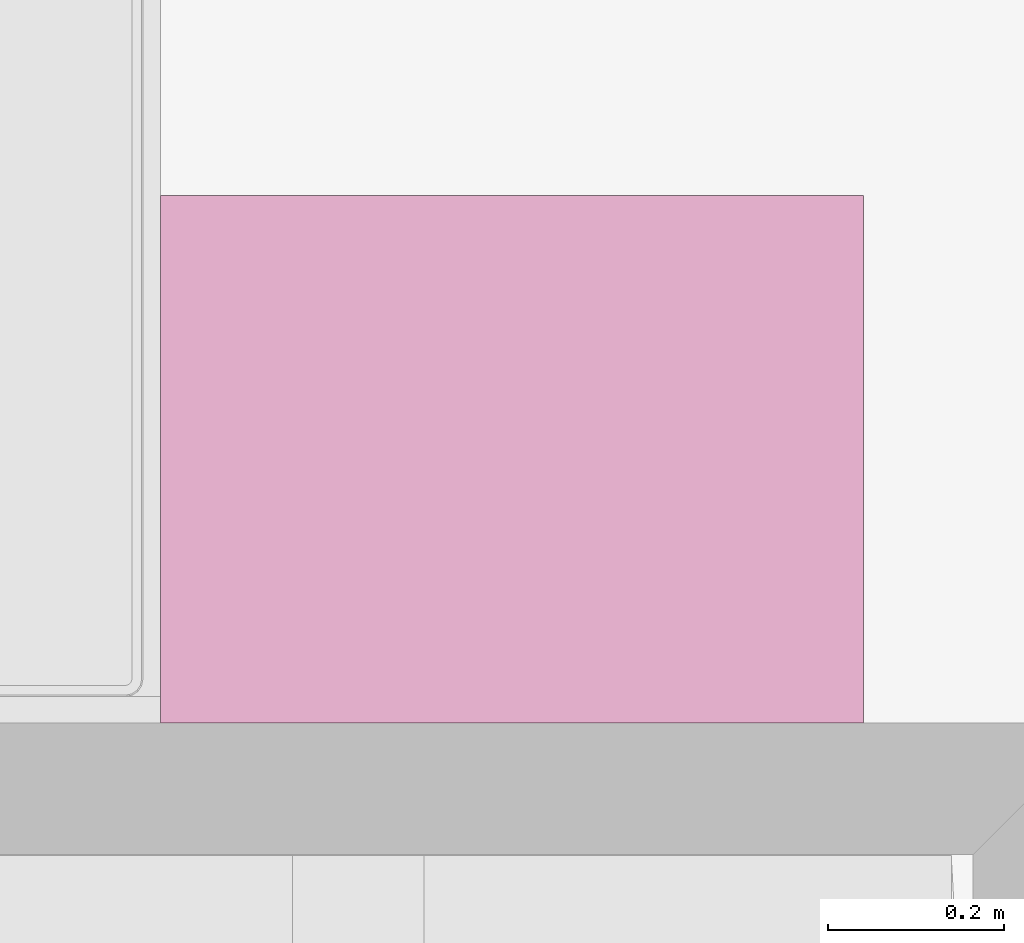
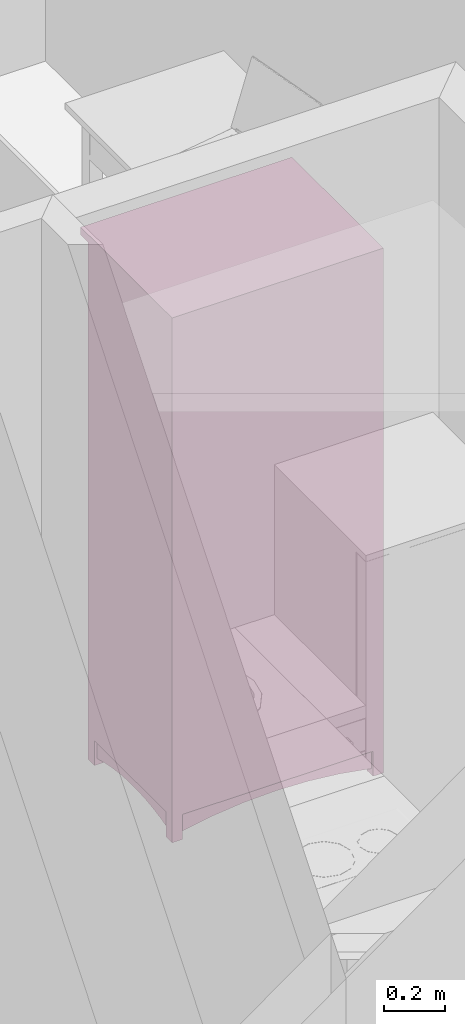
# One storey, part 133 of 172: 1 furnishing.
"""IFC2X3 building model written with IfcOpenShell, lengths in millimetres."""

import ifcopenshell
import ifcopenshell.guid

model = None  # the IFC model being written
_history = None  # IfcOwnerHistory: only IFC2X3 demands one
_inside = {}  # id of a spatial element -> (the spatial element, [elements in it])
_under = {}  # id of a project, library or spatial element -> (it, [spatial elements below it])
_declared = {}  # id of a project -> (the project, [libraries it declares])
_typed = {}  # id of a type object -> (the type object, [elements of that type])
_made_of = {}  # id of a material, layer set ... -> (it, [elements and type objects made of it])


def new_model(schema):
    """Start an empty IFC model of exactly this schema.

    Asked for "IFC4X3", IfcOpenShell would pick the latest addendum, in which some entities
    have other attributes; the version numbers below select the first issue.
    IFC2X3 requires an IfcOwnerHistory on every rooted entity: one is made here for all.
    """
    global model, _history
    if schema == "IFC4X3":
        model = ifcopenshell.file(schema_version=(4, 3, 0, 0))
    else:
        model = ifcopenshell.file(schema=schema)
    _inside.clear()
    _under.clear()
    _declared.clear()
    _typed.clear()
    _made_of.clear()
    _history = None
    if model.schema == "IFC2X3":
        org = make("IfcOrganization", Name="unknown")
        user = make(
            "IfcPersonAndOrganization",
            ThePerson=make("IfcPerson", FamilyName="unknown"),
            TheOrganization=org,
        )
        app = make(
            "IfcApplication",
            ApplicationDeveloper=org,
            Version="unknown",
            ApplicationFullName="unknown",
            ApplicationIdentifier="unknown",
        )
        _history = make(
            "IfcOwnerHistory",
            OwningUser=user,
            OwningApplication=app,
            ChangeAction="ADDED",
            CreationDate=0,
        )
    return model


def make(cls, **values):
    """One entity of the class cls with the attributes given. An attribute that is None is left unset."""
    return model.create_entity(
        cls, **{name: value for name, value in values.items() if value is not None}
    )


def entity(cls, *values):
    """Any entity or typed value of the class cls, its attributes in the order of the schema. None: left unset."""
    e = model.create_entity(cls)
    for i, value in enumerate(values):
        if value is not None:
            e[i] = value
    return e


def rooted(cls, **values):
    """An entity with a GlobalId (a new one), such as an element, a storey or a relation."""
    return make(cls, GlobalId=ifcopenshell.guid.new(), OwnerHistory=_history, **values)


def si_unit(unit_type, name, prefix=None):
    """IfcSIUnit, for example si_unit("LENGTHUNIT", "METRE", prefix="MILLI")."""
    return make("IfcSIUnit", UnitType=unit_type, Prefix=prefix, Name=name)


def converted_unit(unit_type, name, factor, base, dimensions=None, offset=None):
    """IfcConversionBasedUnit, such as the inch: factor (a typed value) times the base unit."""
    return make(
        "IfcConversionBasedUnit"
        if offset is None
        else "IfcConversionBasedUnitWithOffset",
        ConversionOffset=offset,
        Dimensions=None
        if dimensions is None
        else entity("IfcDimensionalExponents", *dimensions),
        UnitType=unit_type,
        Name=name,
        ConversionFactor=make(
            "IfcMeasureWithUnit", ValueComponent=factor, UnitComponent=base
        ),
    )


def money_unit(currency):
    """IfcMonetaryUnit."""
    return make("IfcMonetaryUnit", Currency=currency)


def assignment(units):
    """IfcUnitAssignment: the units of a project."""
    return None if units is None else make("IfcUnitAssignment", Units=units)


def point(xyz):
    """IfcCartesianPoint."""
    return None if xyz is None else make("IfcCartesianPoint", Coordinates=xyz)


def direction(xyz):
    """IfcDirection."""
    return None if xyz is None else make("IfcDirection", DirectionRatios=xyz)


def frame(location, z_axis=None, x_axis=None):
    """IfcAxis2Placement3D, a coordinate frame: its origin and axes. An axis left out is left unset."""
    return make(
        "IfcAxis2Placement3D",
        Location=point(location),
        Axis=direction(z_axis),
        RefDirection=direction(x_axis),
    )


def origin_with_axes():
    """The frame at (0, 0, 0) with the z axis (0, 0, 1) and the x axis (1, 0, 0) written out."""
    return frame((0.0, 0.0, 0.0), z_axis=(0.0, 0.0, 1.0), x_axis=(1.0, 0.0, 0.0))


def place(relative_to, where):
    """IfcLocalPlacement: puts the frame where relative to a parent placement (None: the world)."""
    return make(
        "IfcLocalPlacement", PlacementRelTo=relative_to, RelativePlacement=where
    )


def context(
    kind, dimensions, precision=None, world=None, true_north=None, identifier=None
):
    """IfcGeometricRepresentationContext, for example the 3D "Model" context."""
    return make(
        "IfcGeometricRepresentationContext",
        ContextIdentifier=identifier,
        ContextType=kind,
        CoordinateSpaceDimension=dimensions,
        Precision=precision,
        WorldCoordinateSystem=world,
        TrueNorth=true_north,
    )


def subcontext(parent, identifier, kind, view, scale=None):
    """IfcGeometricRepresentationSubContext, for example "Body" below "Model"."""
    return make(
        "IfcGeometricRepresentationSubContext",
        ContextIdentifier=identifier,
        ContextType=kind,
        ParentContext=parent,
        TargetScale=scale,
        TargetView=view,
    )


def project(units=None, contexts=None):
    """IfcProject with its units and contexts."""
    return rooted(
        "IfcProject",
        Name="project",
        RepresentationContexts=contexts,
        UnitsInContext=assignment(units),
    )


def spatial(cls, under=None, at=None, **own):
    """A site, building, storey or space (cls), placed at a placement, below another one or the project."""
    s = rooted(cls, ObjectPlacement=at, **own)
    if under is not None:
        _under.setdefault(under.id(), (under, []))[1].append(s)
    return s


def faces_of(points, faces, orient=None, outer=None):
    """IfcFace entities. A face is a list of loops; a loop is a list of indices into points, from 0.

    orient and outer hold one flag for each loop. By default every Orientation is true, the
    first loop of a face is its IfcFaceOuterBound and the others are IfcFaceBound.
    """
    made = []
    for i, loops in enumerate(faces):
        bounds = []
        for j, loop in enumerate(loops):
            is_outer = j == 0 if outer is None else outer[i][j]
            bounds.append(
                make(
                    "IfcFaceOuterBound" if is_outer else "IfcFaceBound",
                    Bound=make("IfcPolyLoop", Polygon=[points[k] for k in loop]),
                    Orientation=True if orient is None else orient[i][j],
                )
            )
        made.append(make("IfcFace", Bounds=bounds))
    return made


def faceted_brep(points, faces, orient=None, outer=None, voids=None):
    """IfcFacetedBrep: a solid bounded by flat faces; with voids (closed shells), ...WithVoids."""
    shared = [point(p) for p in points]
    hull = make("IfcClosedShell", CfsFaces=faces_of(shared, faces, orient, outer))
    if voids is None:
        return make("IfcFacetedBrep", Outer=hull)
    return make(
        "IfcFacetedBrepWithVoids",
        Outer=hull,
        Voids=[
            make(cls, CfsFaces=faces_of(shared, fs, o, b)) for cls, fs, o, b in voids
        ],
    )


def shape(context_of_items, identifier, shape_type, items):
    """IfcShapeRepresentation: the items that make up one representation, for example the "Body"."""
    return make(
        "IfcShapeRepresentation",
        ContextOfItems=context_of_items,
        RepresentationIdentifier=identifier,
        RepresentationType=shape_type,
        Items=items,
    )


def source(mapping_origin, context_of_items, identifier, shape_type, items):
    """IfcRepresentationMap: a shape defined once, which mapped items show again and again."""
    return make(
        "IfcRepresentationMap",
        MappingOrigin=mapping_origin,
        MappedRepresentation=shape(context_of_items, identifier, shape_type, items),
    )


def transform(
    local_origin,
    x_axis=None,
    y_axis=None,
    z_axis=None,
    scale=None,
    scale2=None,
    scale3=None,
    uniform=True,
):
    """IfcCartesianTransformationOperator3D, or its non-uniform kind. x_axis, y_axis, z_axis: its Axis1, 2, 3."""
    if uniform:
        return make(
            "IfcCartesianTransformationOperator3D",
            Axis1=direction(x_axis),
            Axis2=direction(y_axis),
            LocalOrigin=point(local_origin),
            Scale=scale,
            Axis3=direction(z_axis),
        )
    return make(
        "IfcCartesianTransformationOperator3DnonUniform",
        Axis1=direction(x_axis),
        Axis2=direction(y_axis),
        LocalOrigin=point(local_origin),
        Scale=scale,
        Axis3=direction(z_axis),
        Scale2=scale2,
        Scale3=scale3,
    )


def mapped(mapping_source, mapping_target):
    """IfcMappedItem: shows the shape of a source again, moved by a transform."""
    return make(
        "IfcMappedItem", MappingSource=mapping_source, MappingTarget=mapping_target
    )


def material(Name=None, Category=None):
    """IfcMaterial."""
    return make("IfcMaterial", Name=Name, Category=Category)


def material_list(materials):
    """IfcMaterialList."""
    return make("IfcMaterialList", Materials=materials)


def made_of(thing, what):
    """Note that an element or type object is made of a material, layer set ...; save() writes the relation."""
    if what is not None:
        _made_of.setdefault(what.id(), (what, []))[1].append(thing)
    return thing


def type_object(cls, material=None, **own):
    """A type object (cls), such as IfcWallType, which elements share."""
    return made_of(rooted(cls, **own), material)


def element(
    cls,
    number,
    at=None,
    inside=None,
    cuts=None,
    type_object=None,
    material=None,
    context=None,
    identifier="Body",
    shape_type=None,
    held_by="IfcProductDefinitionShape",
    body=None,
    shapes=None,
    **own,
):
    """One element of the class cls, such as IfcWall. Its Tag is "e" and its number.

    at: its placement. inside: the storey or other place that contains it. cuts: it is an
    opening in that element (IfcRelVoidsElement). A single representation is given by context,
    identifier, shape_type and body (its items); several are given by shapes. held_by: the class
    of the entity that holds the representations. save() writes the other relations.
    """
    e = rooted(cls, Tag="e%d" % number, ObjectPlacement=at, **own)
    if body is not None:
        shapes = [shape(context, identifier, shape_type, body)]
    if shapes is not None:
        e.Representation = make(held_by, Representations=shapes)
    if inside is not None:
        _inside.setdefault(inside.id(), (inside, []))[1].append(e)
    if cuts is not None:
        rooted(
            "IfcRelVoidsElement", RelatingBuildingElement=cuts, RelatedOpeningElement=e
        )
    if type_object is not None:
        _typed.setdefault(type_object.id(), (type_object, []))[1].append(e)
    return made_of(e, material)


def aggregate(whole, parts):
    """IfcRelAggregates: a whole, such as a stair, and the parts it consists of."""
    return rooted("IfcRelAggregates", RelatingObject=whole, RelatedObjects=parts)


def save(model, path):
    """Write the relations noted so far, then the file.

    IfcRelAggregates (storeys below a building ...), IfcRelContainedInSpatialStructure (elements
    in a storey), IfcRelDefinesByType, IfcRelAssociatesMaterial and IfcRelDeclares: one each for
    every whole, place, type object, material and project.
    """
    for whole, parts in _under.values():
        aggregate(whole, parts)
    for where, things in _inside.values():
        rooted(
            "IfcRelContainedInSpatialStructure",
            RelatedElements=things,
            RelatingStructure=where,
        )
    for kind, things in _typed.values():
        rooted("IfcRelDefinesByType", RelatedObjects=things, RelatingType=kind)
    for what, things in _made_of.values():
        rooted("IfcRelAssociatesMaterial", RelatedObjects=things, RelatingMaterial=what)
    for by, libraries in _declared.values():
        rooted("IfcRelDeclares", RelatingContext=by, RelatedDefinitions=libraries)
    model.write(path)


model = new_model("IFC2X3")

# Units and contexts
model_context = context("Model", 3, precision=1e-05, world=origin_with_axes(), true_north=direction((0.0, 1.0)))
body_context = subcontext(model_context, "Body", "Model", "MODEL_VIEW")
ifc_project = project(units=[si_unit("LENGTHUNIT", "METRE", prefix="MILLI"), si_unit("AREAUNIT", "SQUARE_METRE"), si_unit("VOLUMEUNIT", "CUBIC_METRE"), converted_unit("PLANEANGLEUNIT", "DEGREE", entity("IfcPlaneAngleMeasure", 0.0174532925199), si_unit("PLANEANGLEUNIT", "RADIAN"), dimensions=[0, 0, 0, 0, 0, 0, 0]), si_unit("SOLIDANGLEUNIT", "STERADIAN"), money_unit("USD"), converted_unit("TIMEUNIT", "Year", entity("IfcTimeMeasure", 31556926.0), si_unit("TIMEUNIT", "SECOND"), dimensions=[0, 0, 0, 0, 0, 0, 0]), si_unit("MASSUNIT", "GRAM"), si_unit("THERMODYNAMICTEMPERATUREUNIT", "DEGREE_CELSIUS"), si_unit("LUMINOUSINTENSITYUNIT", "LUMEN")], contexts=[model_context])

# Site, building, storey
site_placement = place(None, origin_with_axes())
site = spatial("IfcSite", under=ifc_project, at=site_placement, Name="Site", CompositionType="ELEMENT")
building_placement = place(site_placement, origin_with_axes())
building = spatial("IfcBuilding", under=site, at=building_placement, Name="Building", CompositionType="ELEMENT")
storey_placement = place(building_placement, frame((0.0, 0.0, 3200.0), z_axis=(0.0, 0.0, 1.0), x_axis=(1.0, 0.0, 0.0)))
storey = spatial("IfcBuildingStorey", under=building, at=storey_placement, Name="3KORRUS", CompositionType="ELEMENT", Elevation=3200.0)

# Furnishing
ifc_material = material(Name="Background")
ifc_material_list = material_list([ifc_material])
furnishing_element_type = type_object("IfcFurnishingElementType", Name="Cupboard 19")
shared_shape = source(origin_with_axes(), body_context, "Body", "Brep", [
    faceted_brep([(780.0, 600.0, 120.0), (780.0, 600.0, 2050.0), (780.0, 580.0, 2050.0), (780.0, 580.0, 120.0), (20.0, 600.0, 120.0), (20.0, 600.0, 2050.0), (20.0, 580.0, 2050.0), (20.0, 580.0, 120.0)], [[[0, 1, 2, 3]], [[4, 5, 1, 0]], [[1, 5, 6, 2]], [[3, 2, 6, 7]], [[0, 3, 7, 4]], [[7, 6, 5, 4]]]),
    faceted_brep([(0.0, 50.0, 100.0), (0.0, 600.0, 100.0), (20.0, 600.0, 100.0), (20.0, 50.0, 100.0), (0.0, 50.0, 2070.0), (0.0, 600.0, 2070.0), (20.0, 600.0, 2070.0), (20.0, 50.0, 2070.0)], [[[0, 1, 2, 3]], [[0, 4, 5, 1]], [[1, 5, 6, 2]], [[2, 6, 7, 3]], [[3, 7, 4, 0]], [[7, 6, 5, 4]]]),
    faceted_brep([(780.0, 50.0, 100.0), (780.0, 600.0, 100.0), (800.0, 600.0, 100.0), (800.0, 50.0, 100.0), (780.0, 50.0, 2070.0), (780.0, 600.0, 2070.0), (800.0, 600.0, 2070.0), (800.0, 50.0, 2070.0)], [[[0, 1, 2, 3]], [[0, 4, 5, 1]], [[1, 5, 6, 2]], [[2, 6, 7, 3]], [[3, 7, 4, 0]], [[7, 6, 5, 4]]]),
    faceted_brep([(20.0, 50.0, 100.0), (20.0, 600.0, 100.0), (780.0, 600.0, 100.0), (780.0, 50.0, 100.0), (20.0, 50.0, 120.0), (20.0, 600.0, 120.0), (780.0, 600.0, 120.0), (780.0, 50.0, 120.0)], [[[0, 1, 2, 3]], [[0, 4, 5, 1]], [[1, 5, 6, 2]], [[2, 6, 7, 3]], [[3, 7, 4, 0]], [[7, 6, 5, 4]]]),
    faceted_brep([(20.0, 50.0, 2050.0), (20.0, 600.0, 2050.0), (780.0, 600.0, 2050.0), (780.0, 50.0, 2050.0), (20.0, 50.0, 2070.0), (20.0, 600.0, 2070.0), (780.0, 600.0, 2070.0), (780.0, 50.0, 2070.0)], [[[0, 1, 2, 3]], [[0, 4, 5, 1]], [[1, 5, 6, 2]], [[2, 6, 7, 3]], [[3, 7, 4, 0]], [[7, 6, 5, 4]]]),
    faceted_brep([(0.0, 600.0, 2070.0), (0.0, 0.0, 2070.0), (0.0, 0.0, 2100.0), (0.0, 600.0, 2100.0), (800.0, 600.0, 2070.0), (800.0, 0.0, 2070.0), (800.0, 0.0, 2100.0), (800.0, 600.0, 2100.0)], [[[0, 1, 2, 3]], [[0, 4, 5, 1]], [[1, 5, 6, 2]], [[3, 2, 6, 7]], [[4, 0, 3, 7]], [[5, 4, 7, 6]]]),
    faceted_brep([(760.0, 590.0, 25.0), (760.0, 570.0, 25.0), (640.962, 570.0, 45.8), (640.962, 590.0, 45.8), (760.0, 590.0, 100.0), (760.0, 570.0, 100.0), (40.0, 570.0, 100.0), (40.0, 570.0, 25.0), (159.038, 570.0, 45.8), (279.23, 570.0, 58.32), (400.0, 570.0, 62.5), (520.77, 570.0, 58.32), (520.77, 590.0, 58.32), (400.0, 590.0, 62.5), (279.23, 590.0, 58.32), (159.038, 590.0, 45.8), (40.0, 590.0, 25.0), (40.0, 590.0, 100.0)], [[[0, 1, 2, 3]], [[4, 5, 1, 0]], [[1, 5, 6, 7, 8, 9, 10, 11, 2]], [[3, 2, 11, 12]], [[0, 3, 12, 13, 14, 15, 16, 17, 4]], [[17, 6, 5, 4]], [[16, 7, 6, 17]], [[15, 8, 7, 16]], [[14, 9, 8, 15]], [[13, 10, 9, 14]], [[12, 11, 10, 13]]]),
    faceted_brep([(760.0, 80.0, 25.0), (760.0, 60.0, 25.0), (640.962, 60.0, 45.8), (640.962, 80.0, 45.8), (760.0, 80.0, 100.0), (760.0, 60.0, 100.0), (40.0, 60.0, 100.0), (40.0, 60.0, 25.0), (159.038, 60.0, 45.8), (279.23, 60.0, 58.32), (400.0, 60.0, 62.5), (520.77, 60.0, 58.32), (520.77, 80.0, 58.32), (400.0, 80.0, 62.5), (279.23, 80.0, 58.32), (159.038, 80.0, 45.8), (40.0, 80.0, 25.0), (40.0, 80.0, 100.0)], [[[0, 1, 2, 3]], [[4, 5, 1, 0]], [[1, 5, 6, 7, 8, 9, 10, 11, 2]], [[3, 2, 11, 12]], [[0, 3, 12, 13, 14, 15, 16, 17, 4]], [[17, 6, 5, 4]], [[16, 7, 6, 17]], [[15, 8, 7, 16]], [[14, 9, 8, 15]], [[13, 10, 9, 14]], [[12, 11, 10, 13]]]),
    faceted_brep([(790.0, 90.0, 25.0), (770.0, 90.0, 25.0), (770.0, 141.266, 38.072), (790.0, 141.266, 38.072), (790.0, 90.0, 100.0), (770.0, 90.0, 100.0), (770.0, 560.0, 100.0), (770.0, 560.0, 25.0), (770.0, 508.734, 38.072), (770.0, 456.752, 47.92), (770.0, 404.257, 54.508), (770.0, 351.453, 57.808), (770.0, 298.547, 57.808), (770.0, 245.743, 54.508), (770.0, 193.248, 47.92), (790.0, 193.248, 47.92), (790.0, 245.743, 54.508), (790.0, 298.547, 57.808), (790.0, 351.453, 57.808), (790.0, 404.257, 54.508), (790.0, 456.752, 47.92), (790.0, 508.734, 38.072), (790.0, 560.0, 25.0), (790.0, 560.0, 100.0)], [[[0, 1, 2, 3]], [[4, 5, 1, 0]], [[1, 5, 6, 7, 8, 9, 10, 11, 12, 13, 14, 2]], [[3, 2, 14, 15]], [[0, 3, 15, 16, 17, 18, 19, 20, 21, 22, 23, 4]], [[23, 6, 5, 4]], [[22, 7, 6, 23]], [[21, 8, 7, 22]], [[20, 9, 8, 21]], [[19, 10, 9, 20]], [[18, 11, 10, 19]], [[17, 12, 11, 18]], [[16, 13, 12, 17]], [[15, 14, 13, 16]]]),
    faceted_brep([(30.0, 90.0, 25.0), (10.0, 90.0, 25.0), (10.0, 141.266, 38.072), (30.0, 141.266, 38.072), (30.0, 90.0, 100.0), (10.0, 90.0, 100.0), (10.0, 560.0, 100.0), (10.0, 560.0, 25.0), (10.0, 508.734, 38.072), (10.0, 456.752, 47.92), (10.0, 404.257, 54.508), (10.0, 351.453, 57.808), (10.0, 298.547, 57.808), (10.0, 245.743, 54.508), (10.0, 193.248, 47.92), (30.0, 193.248, 47.92), (30.0, 245.743, 54.508), (30.0, 298.547, 57.808), (30.0, 351.453, 57.808), (30.0, 404.257, 54.508), (30.0, 456.752, 47.92), (30.0, 508.734, 38.072), (30.0, 560.0, 25.0), (30.0, 560.0, 100.0)], [[[0, 1, 2, 3]], [[4, 5, 1, 0]], [[1, 5, 6, 7, 8, 9, 10, 11, 12, 13, 14, 2]], [[3, 2, 14, 15]], [[0, 3, 15, 16, 17, 18, 19, 20, 21, 22, 23, 4]], [[23, 6, 5, 4]], [[22, 7, 6, 23]], [[21, 8, 7, 22]], [[20, 9, 8, 21]], [[19, 10, 9, 20]], [[18, 11, 10, 19]], [[17, 12, 11, 18]], [[16, 13, 12, 17]], [[15, 14, 13, 16]]]),
    faceted_brep([(760.0, 560.0, 0.0), (760.0, 560.0, 100.0), (760.0, 600.0, 100.0), (760.0, 600.0, 0.0), (800.0, 560.0, 0.0), (800.0, 560.0, 100.0), (800.0, 600.0, 100.0), (800.0, 600.0, 0.0)], [[[0, 1, 2, 3]], [[4, 5, 1, 0]], [[1, 5, 6, 2]], [[3, 2, 6, 7]], [[0, 3, 7, 4]], [[7, 6, 5, 4]]]),
    faceted_brep([(0.0, 560.0, 0.0), (0.0, 560.0, 100.0), (0.0, 600.0, 100.0), (0.0, 600.0, 0.0), (40.0, 560.0, 0.0), (40.0, 560.0, 100.0), (40.0, 600.0, 100.0), (40.0, 600.0, 0.0)], [[[0, 1, 2, 3]], [[4, 5, 1, 0]], [[1, 5, 6, 2]], [[3, 2, 6, 7]], [[0, 3, 7, 4]], [[7, 6, 5, 4]]]),
    faceted_brep([(760.0, 50.0, 0.0), (760.0, 50.0, 100.0), (760.0, 90.0, 100.0), (760.0, 90.0, 0.0), (800.0, 50.0, 0.0), (800.0, 50.0, 100.0), (800.0, 90.0, 100.0), (800.0, 90.0, 0.0)], [[[0, 1, 2, 3]], [[4, 5, 1, 0]], [[1, 5, 6, 2]], [[3, 2, 6, 7]], [[0, 3, 7, 4]], [[7, 6, 5, 4]]]),
    faceted_brep([(0.0, 50.0, 0.0), (0.0, 50.0, 100.0), (0.0, 90.0, 100.0), (0.0, 90.0, 0.0), (40.0, 50.0, 0.0), (40.0, 50.0, 100.0), (40.0, 90.0, 100.0), (40.0, 90.0, 0.0)], [[[0, 1, 2, 3]], [[4, 5, 1, 0]], [[1, 5, 6, 2]], [[3, 2, 6, 7]], [[0, 3, 7, 4]], [[7, 6, 5, 4]]]),
    faceted_brep([(780.0, 580.0, 587.5), (780.0, 580.0, 607.5), (780.0, 50.0, 607.5), (780.0, 50.0, 587.5), (20.0, 580.0, 587.5), (20.0, 580.0, 607.5), (20.0, 50.0, 607.5), (20.0, 50.0, 587.5)], [[[0, 1, 2, 3]], [[4, 5, 1, 0]], [[1, 5, 6, 2]], [[3, 2, 6, 7]], [[0, 3, 7, 4]], [[7, 6, 5, 4]]]),
    faceted_brep([(780.0, 580.0, 1075.0), (780.0, 580.0, 1095.0), (780.0, 50.0, 1095.0), (780.0, 50.0, 1075.0), (20.0, 580.0, 1075.0), (20.0, 580.0, 1095.0), (20.0, 50.0, 1095.0), (20.0, 50.0, 1075.0)], [[[0, 1, 2, 3]], [[4, 5, 1, 0]], [[1, 5, 6, 2]], [[3, 2, 6, 7]], [[0, 3, 7, 4]], [[7, 6, 5, 4]]]),
    faceted_brep([(780.0, 580.0, 1562.5), (780.0, 580.0, 1582.5), (780.0, 50.0, 1582.5), (780.0, 50.0, 1562.5), (20.0, 580.0, 1562.5), (20.0, 580.0, 1582.5), (20.0, 50.0, 1582.5), (20.0, 50.0, 1562.5)], [[[0, 1, 2, 3]], [[4, 5, 1, 0]], [[1, 5, 6, 2]], [[3, 2, 6, 7]], [[0, 3, 7, 4]], [[7, 6, 5, 4]]]),
    faceted_brep([(789.5, 50.0, 110.5), (400.5, 50.0, 110.5), (400.5, 50.0, 2059.5), (789.5, 50.0, 2059.5), (789.5, 40.0, 110.5), (400.5, 40.0, 110.5), (400.5, 40.0, 2059.5), (789.5, 40.0, 2059.5), (779.5, 30.0, 120.5), (410.5, 30.0, 120.5), (410.5, 30.0, 2049.5), (779.5, 30.0, 2049.5)], [[[0, 1, 2, 3]], [[0, 4, 5, 1]], [[1, 5, 6, 2]], [[2, 6, 7, 3]], [[3, 7, 4, 0]], [[4, 8, 9, 5]], [[5, 9, 10, 6]], [[6, 10, 11, 7]], [[7, 11, 8, 4]], [[10, 9, 8, 11]]]),
    faceted_brep([(399.5, 50.0, 110.5), (10.5, 50.0, 110.5), (10.5, 50.0, 2059.5), (399.5, 50.0, 2059.5), (399.5, 40.0, 110.5), (10.5, 40.0, 110.5), (10.5, 40.0, 2059.5), (399.5, 40.0, 2059.5), (389.5, 30.0, 120.5), (20.5, 30.0, 120.5), (20.5, 30.0, 2049.5), (389.5, 30.0, 2049.5)], [[[0, 1, 2, 3]], [[0, 4, 5, 1]], [[1, 5, 6, 2]], [[2, 6, 7, 3]], [[3, 7, 4, 0]], [[4, 8, 9, 5]], [[5, 9, 10, 6]], [[6, 10, 11, 7]], [[7, 11, 8, 4]], [[10, 9, 8, 11]]]),
    faceted_brep([(339.608, 30.0, 954.0), (338.0, 30.0, 960.0), (339.608, 30.0, 966.0), (344.0, 30.0, 970.392), (350.0, 30.0, 972.0), (356.0, 30.0, 970.392), (360.392, 30.0, 966.0), (362.0, 30.0, 960.0), (360.392, 30.0, 954.0), (356.0, 30.0, 949.608), (350.0, 30.0, 948.0), (344.0, 30.0, 949.608), (339.608, 5.0, 954.0), (338.0, 5.0, 960.0), (339.608, 5.0, 966.0), (344.0, 5.0, 970.392), (350.0, 5.0, 972.0), (356.0, 5.0, 970.392), (360.392, 5.0, 966.0), (362.0, 5.0, 960.0), (360.392, 5.0, 954.0), (356.0, 5.0, 949.608), (350.0, 5.0, 948.0), (344.0, 5.0, 949.608)], [[[0, 1, 2, 3, 4, 5, 6, 7, 8, 9, 10, 11]], [[0, 12, 13, 1]], [[1, 13, 14, 2]], [[2, 14, 15, 3]], [[3, 15, 16, 4]], [[4, 16, 17, 5]], [[5, 17, 18, 6]], [[6, 18, 19, 7]], [[7, 19, 20, 8]], [[8, 20, 21, 9]], [[9, 21, 22, 10]], [[10, 22, 23, 11]], [[11, 23, 12, 0]], [[12, 23, 22, 21, 20, 19, 18, 17, 16, 15, 14, 13]]]),
    faceted_brep([(460.392, 30.0, 954.0), (456.0, 30.0, 949.608), (450.0, 30.0, 948.0), (444.0, 30.0, 949.608), (439.608, 30.0, 954.0), (438.0, 30.0, 960.0), (439.608, 30.0, 966.0), (444.0, 30.0, 970.392), (450.0, 30.0, 972.0), (456.0, 30.0, 970.392), (460.392, 30.0, 966.0), (462.0, 30.0, 960.0), (460.392, 5.0, 954.0), (456.0, 5.0, 949.608), (450.0, 5.0, 948.0), (444.0, 5.0, 949.608), (439.608, 5.0, 954.0), (438.0, 5.0, 960.0), (439.608, 5.0, 966.0), (444.0, 5.0, 970.392), (450.0, 5.0, 972.0), (456.0, 5.0, 970.392), (460.392, 5.0, 966.0), (462.0, 5.0, 960.0)], [[[0, 1, 2, 3, 4, 5, 6, 7, 8, 9, 10, 11]], [[1, 0, 12, 13]], [[2, 1, 13, 14]], [[3, 2, 14, 15]], [[4, 3, 15, 16]], [[5, 4, 16, 17]], [[6, 5, 17, 18]], [[7, 6, 18, 19]], [[8, 7, 19, 20]], [[9, 8, 20, 21]], [[10, 9, 21, 22]], [[11, 10, 22, 23]], [[0, 11, 23, 12]], [[12, 23, 22, 21, 20, 19, 18, 17, 16, 15, 14, 13]]]),
])
furnishing_placement = place(storey_placement, frame((-4290.29670331, -8616.37850445, 0.0), z_axis=(0.0, 0.0, 1.0), x_axis=(-1.0, 0.0, 0.0)))
element("IfcFurnishingElement", 1, at=furnishing_placement, inside=storey, type_object=furnishing_element_type, material=ifc_material_list, Name="FU - 014", context=body_context, shape_type="MappedRepresentation", body=[
    mapped(shared_shape, transform((0.0, 0.0, 0.0))),
])

save(model, "model.ifc")
